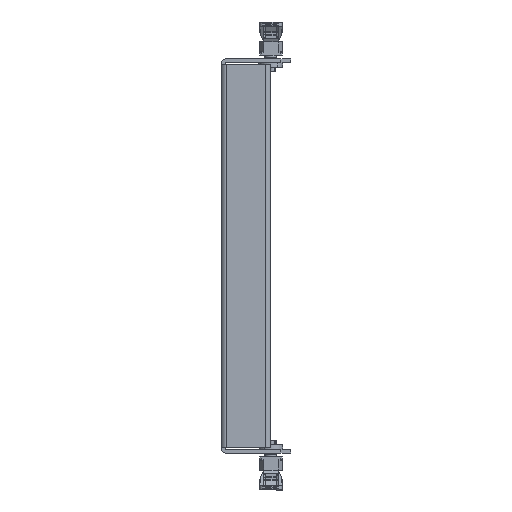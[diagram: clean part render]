
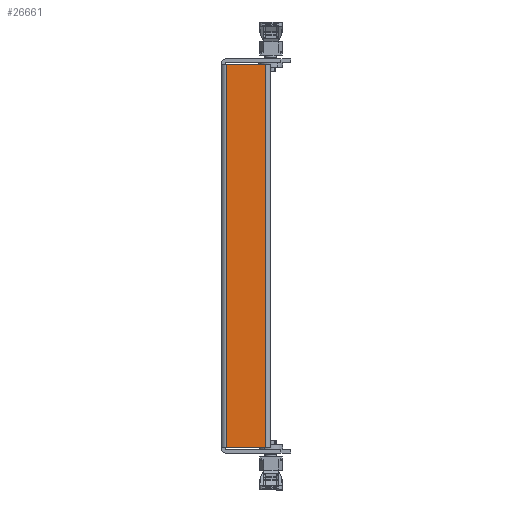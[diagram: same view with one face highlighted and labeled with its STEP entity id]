
A CAD part, left-side view. The second image highlights one B-rep face of the part: STEP entity #26661.
In plain terms, the highlighted planar face has unit normal (-1, 0, 0).
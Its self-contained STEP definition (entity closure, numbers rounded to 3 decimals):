
#24391=CARTESIAN_POINT(' ',(-255.5,-2.6,-96.4));
#24392=VERTEX_POINT(' ',#24391);
#24406=CARTESIAN_POINT(' ',(-255.5,-2.6,96.4));
#24411=DIRECTION(' ',(0.,0.,-1.));
#24416=VECTOR(' ',#24411,1.);
#24421=LINE('',#24406,#24416);
#24426=CARTESIAN_POINT(' ',(-255.5,-2.6,96.4));
#24427=VERTEX_POINT(' ',#24426);
#24431=EDGE_CURVE(' ',#24427,#24392,#24421,.T.);
#26521=DIRECTION(' ',(-1.,-0.,-0.));
#26526=CARTESIAN_POINT(' ',(-255.5,-22.4,96.4));
#26531=DIRECTION(' ',(-0.,1.,0.));
#26536=AXIS2_PLACEMENT_3D(' ',#26526,#26521,#26531);
#26541=PLANE('NONE',#26536);
#26546=CARTESIAN_POINT(' ',(-255.5,-2.6,-96.4));
#26551=DIRECTION(' ',(0.,-1.,0.));
#26556=VECTOR(' ',#26551,1.);
#26561=LINE('',#26546,#26556);
#26566=CARTESIAN_POINT(' ',(-255.5,-22.4,-96.4));
#26567=VERTEX_POINT(' ',#26566);
#26571=EDGE_CURVE(' ',#24392,#26567,#26561,.T.);
#26576=ORIENTED_EDGE(' ',*,*,#26571,.T.);
#26581=CARTESIAN_POINT(' ',(-255.5,-22.4,96.4));
#26586=DIRECTION(' ',(0.,0.,-1.));
#26591=VECTOR(' ',#26586,1.);
#26596=LINE('',#26581,#26591);
#26601=CARTESIAN_POINT(' ',(-255.5,-22.4,96.4));
#26602=VERTEX_POINT(' ',#26601);
#26606=EDGE_CURVE(' ',#26602,#26567,#26596,.T.);
#26611=ORIENTED_EDGE(' ',*,*,#26606,.F.);
#26616=CARTESIAN_POINT(' ',(-255.5,-2.6,96.4));
#26621=DIRECTION(' ',(0.,-1.,0.));
#26626=VECTOR(' ',#26621,1.);
#26631=LINE('',#26616,#26626);
#26636=EDGE_CURVE(' ',#24427,#26602,#26631,.T.);
#26641=ORIENTED_EDGE(' ',*,*,#26636,.F.);
#26646=ORIENTED_EDGE(' ',*,*,#24431,.T.);
#26651=EDGE_LOOP(' ',(#26576,#26611,#26641,#26646));
#26656=FACE_OUTER_BOUND(' ',#26651,.T.);
#26661=ADVANCED_FACE('NONE',(#26656),#26541,.T.);
